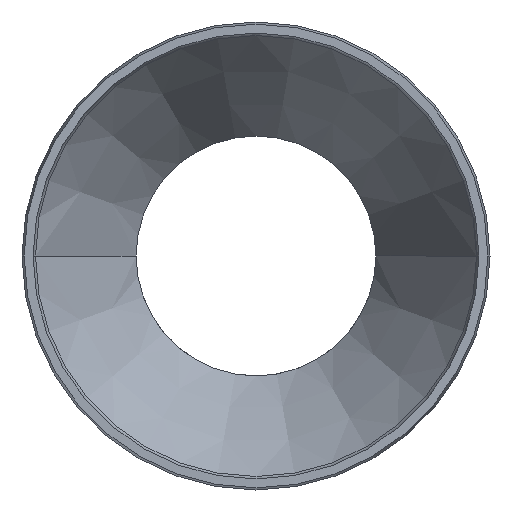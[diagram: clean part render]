
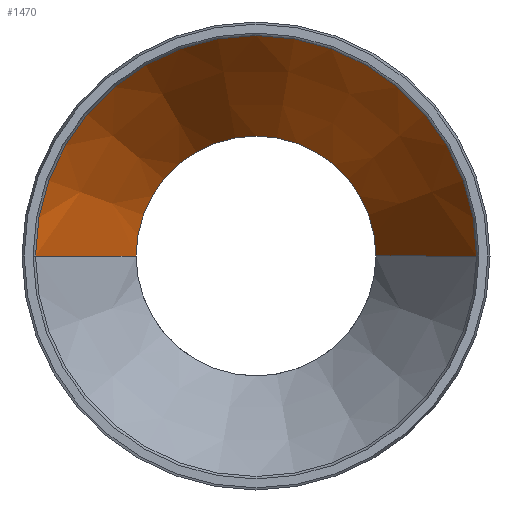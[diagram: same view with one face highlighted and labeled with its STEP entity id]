
A CAD part, front view. The second image highlights one B-rep face of the part: STEP entity #1470.
In plain terms, the highlighted conical face has half-angle 30 degrees and reference radius 36.25 mm.
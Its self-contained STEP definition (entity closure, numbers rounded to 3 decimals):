
#100=CARTESIAN_POINT('',(-183.476,12.521,
0.));
#110=VERTEX_POINT('',#100);
#160=CARTESIAN_POINT('',(-202.976,12.521,
0.));
#170=DIRECTION('',(0.,-1.,0.));
#180=DIRECTION('',(1.,0.,0.));
#190=AXIS2_PLACEMENT_3D('',#160,#170,#180);
#200=CIRCLE('',#190,19.5);
#210=CARTESIAN_POINT('',(-222.476,12.521,
0.));
#220=VERTEX_POINT('',#210);
#1150=CARTESIAN_POINT('',(-202.976,-16.491,0.));
#1160=DIRECTION('',(0.,-1.,0.));
#1170=DIRECTION('',(1.,0.,0.));
#1180=AXIS2_PLACEMENT_3D('',#1150,#1160,#1170);
#1190=CONICAL_SURFACE('',#1180,36.25,0.524);
#1200=CARTESIAN_POINT('',(-166.726,-16.491,
0.));
#1210=DIRECTION('',(0.5,-0.866,0.));
#1220=VECTOR('',#1210,72.5);
#1230=LINE('',#1200,#1220);
#1240=CARTESIAN_POINT('',(-167.128,-15.795,0.));
#1250=VERTEX_POINT('',#1240);
#1260=EDGE_CURVE('',#110,#1250,#1230,.T.);
#1270=ORIENTED_EDGE('',*,*,#1260,.T.);
#1280=EDGE_CURVE('',#110,#220,#200,.T.);
#1290=ORIENTED_EDGE('',*,*,#1280,.F.);
#1300=CARTESIAN_POINT('',(-239.226,-16.491,
0.));
#1310=DIRECTION('',(-0.5,-0.866,0.));
#1320=VECTOR('',#1310,72.5);
#1330=LINE('',#1300,#1320);
#1340=CARTESIAN_POINT('',(-238.825,-15.795,0.));
#1350=VERTEX_POINT('',#1340);
#1360=EDGE_CURVE('',#220,#1350,#1330,.T.);
#1370=ORIENTED_EDGE('',*,*,#1360,.F.);
#1380=CARTESIAN_POINT('',(-202.976,-15.795,0.));
#1390=DIRECTION('',(0.,-1.,0.));
#1400=DIRECTION('',(-1.,0.,0.));
#1410=AXIS2_PLACEMENT_3D('',#1380,#1390,#1400);
#1420=CIRCLE('',#1410,35.848);
#1430=EDGE_CURVE('',#1250,#1350,#1420,.T.);
#1440=ORIENTED_EDGE('',*,*,#1430,.T.);
#1450=EDGE_LOOP('',(#1440,#1370,#1290,#1270));
#1460=FACE_OUTER_BOUND('',#1450,.T.);
#1470=ADVANCED_FACE('',(#1460),#1190,.F.);
